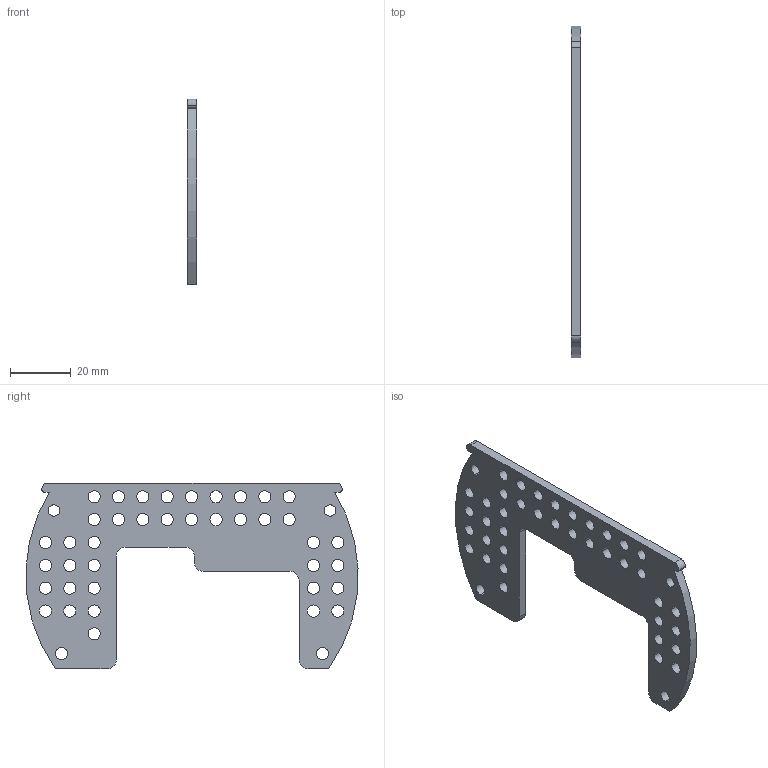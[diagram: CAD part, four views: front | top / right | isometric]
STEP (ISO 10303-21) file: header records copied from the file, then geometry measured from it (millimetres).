
FILE_DESCRIPTION (( 'STEP AP214' ), '1' );
FILE_NAME ('Front_Cover_Plate.STEP', '2019-01-10T18:29:42', ( '' ), ( '' ), 'SwSTEP 2.0', 'SolidWorks 2017', '' );
FILE_SCHEMA (( 'AUTOMOTIVE_DESIGN' ));
Length unit declared in the file: millimetre
Products named in the file (1): Front_Cover_Plate
Bounding box: 3 x 108.98 x 61 mm (x, y, z)
Volume: 10899.8 mm3; surface area: 10059.3 mm2
Topology: 1 solids, 1 shells, 110 faces, 324 edges, 216 vertices
Faces by surface type: cylinder 98, plane 12
Entity records: 3990 total; most frequent: DIRECTION 742, CARTESIAN_POINT 651, ORIENTED_EDGE 648, EDGE_CURVE 324, AXIS2_PLACEMENT_3D 307, VERTEX_POINT 216, CIRCLE 196, EDGE_LOOP 196
